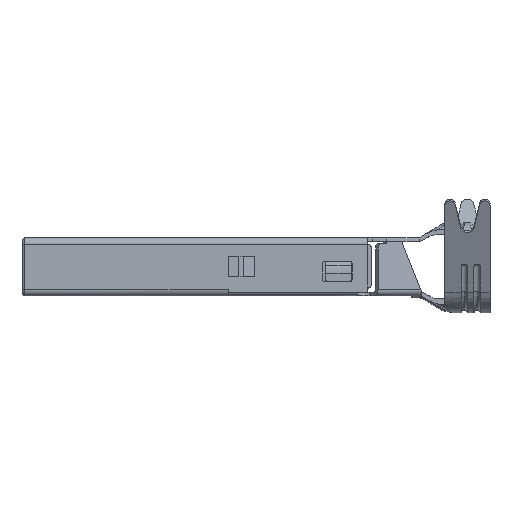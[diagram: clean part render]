
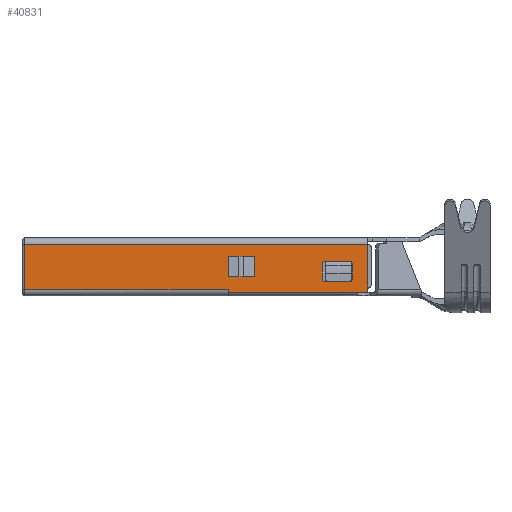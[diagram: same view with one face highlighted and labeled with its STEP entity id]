
A CAD part, left-side view. The second image highlights one B-rep face of the part: STEP entity #40831.
In plain terms, the highlighted planar face has unit normal (-1, 0, 0).
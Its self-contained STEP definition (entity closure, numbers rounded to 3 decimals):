
#592 = CIRCLE ( 'NONE', #28705, 0.2 ) ;
#2134 = DIRECTION ( 'NONE',  ( 0., 0., 1. ) ) ;
#2595 = VECTOR ( 'NONE', #7902, 1000. ) ;
#2637 = EDGE_CURVE ( 'NONE', #6120, #18739, #38503, .T. ) ;
#2782 = ORIENTED_EDGE ( 'NONE', *, *, #20407, .F. ) ;
#2844 = VERTEX_POINT ( 'NONE', #28411 ) ;
#2873 = CIRCLE ( 'NONE', #38255, 0.2 ) ;
#3022 = VERTEX_POINT ( 'NONE', #10012 ) ;
#3107 = CARTESIAN_POINT ( 'NONE',  ( -6., -8.5, -0.92 ) ) ;
#3429 = EDGE_CURVE ( 'NONE', #41104, #15082, #18975, .T. ) ;
#3697 = LINE ( 'NONE', #22072, #24335 ) ;
#4017 = LINE ( 'NONE', #31851, #8074 ) ;
#4866 = VECTOR ( 'NONE', #2134, 1000. ) ;
#4987 = ORIENTED_EDGE ( 'NONE', *, *, #29692, .F. ) ;
#5096 = EDGE_LOOP ( 'NONE', ( #2782, #30464, #9655, #22869, #8061, #40311, #41074, #6687 ) ) ;
#5278 = DIRECTION ( 'NONE',  ( -1., 0., 0. ) ) ;
#5310 = CARTESIAN_POINT ( 'NONE',  ( -6., -1.2, -1.92 ) ) ;
#5532 = ORIENTED_EDGE ( 'NONE', *, *, #19105, .T. ) ;
#5942 = LINE ( 'NONE', #36628, #4866 ) ;
#6120 = VERTEX_POINT ( 'NONE', #20046 ) ;
#6687 = ORIENTED_EDGE ( 'NONE', *, *, #3429, .F. ) ;
#6885 = LINE ( 'NONE', #14433, #38551 ) ;
#7722 = DIRECTION ( 'NONE',  ( 0., 1., 0. ) ) ;
#7902 = DIRECTION ( 'NONE',  ( 0., -1., 0. ) ) ;
#7993 = EDGE_CURVE ( 'NONE', #15082, #22793, #48181, .T. ) ;
#8033 = DIRECTION ( 'NONE',  ( 0., 1., 0. ) ) ;
#8061 = ORIENTED_EDGE ( 'NONE', *, *, #2637, .F. ) ;
#8074 = VECTOR ( 'NONE', #15342, 1000. ) ;
#8159 = CARTESIAN_POINT ( 'NONE',  ( -6., -12., 1.78 ) ) ;
#8299 = EDGE_CURVE ( 'NONE', #22793, #6120, #6885, .T. ) ;
#8676 = DIRECTION ( 'NONE',  ( 1., 0., 0. ) ) ;
#8678 = ORIENTED_EDGE ( 'NONE', *, *, #15381, .T. ) ;
#9036 = VERTEX_POINT ( 'NONE', #36975 ) ;
#9616 = CARTESIAN_POINT ( 'NONE',  ( -6., -3.2, 0.88 ) ) ;
#9655 = ORIENTED_EDGE ( 'NONE', *, *, #21961, .F. ) ;
#10012 = CARTESIAN_POINT ( 'NONE',  ( -6., -1.2, -1.72 ) ) ;
#10375 = VECTOR ( 'NONE', #18372, 1000. ) ;
#10484 = LINE ( 'NONE', #41207, #32705 ) ;
#11700 = CARTESIAN_POINT ( 'NONE',  ( -6., -1.2, 0.88 ) ) ;
#11907 = CARTESIAN_POINT ( 'NONE',  ( -6., -8.7, -1.12 ) ) ;
#12107 = CARTESIAN_POINT ( 'NONE',  ( -6., -10.6, -0.92 ) ) ;
#12245 = ORIENTED_EDGE ( 'NONE', *, *, #46770, .F. ) ;
#13776 = CARTESIAN_POINT ( 'NONE',  ( -6., -8.7, 0.48 ) ) ;
#14433 = CARTESIAN_POINT ( 'NONE',  ( -6., -10.8, -0.92 ) ) ;
#14988 = VECTOR ( 'NONE', #8033, 1000. ) ;
#15020 = EDGE_CURVE ( 'NONE', #18739, #28502, #27673, .T. ) ;
#15082 = VERTEX_POINT ( 'NONE', #43254 ) ;
#15203 = CARTESIAN_POINT ( 'NONE',  ( -6., -8.7, -1.12 ) ) ;
#15242 = VERTEX_POINT ( 'NONE', #23751 ) ;
#15342 = DIRECTION ( 'NONE',  ( 0., -1., 0. ) ) ;
#15381 = EDGE_CURVE ( 'NONE', #36878, #22774, #10484, .T. ) ;
#16241 = FACE_BOUND ( 'NONE', #5096, .T. ) ;
#16713 = ORIENTED_EDGE ( 'NONE', *, *, #39250, .F. ) ;
#17907 = VERTEX_POINT ( 'NONE', #9616 ) ;
#18048 = DIRECTION ( 'NONE',  ( 0., 1., 0. ) ) ;
#18339 = EDGE_LOOP ( 'NONE', ( #42837, #31669, #16713, #12245 ) ) ;
#18372 = DIRECTION ( 'NONE',  ( 0., 0., -1. ) ) ;
#18379 = LINE ( 'NONE', #45334, #36953 ) ;
#18547 = EDGE_CURVE ( 'NONE', #45453, #17907, #27101, .T. ) ;
#18739 = VERTEX_POINT ( 'NONE', #36857 ) ;
#18975 = LINE ( 'NONE', #15203, #2595 ) ;
#19105 = EDGE_CURVE ( 'NONE', #22774, #28131, #38625, .T. ) ;
#19798 = EDGE_CURVE ( 'NONE', #9036, #45453, #4017, .T. ) ;
#20046 = CARTESIAN_POINT ( 'NONE',  ( -6., -10.8, 0.28 ) ) ;
#20094 = CARTESIAN_POINT ( 'NONE',  ( -6., -10.6, 0.48 ) ) ;
#20407 = EDGE_CURVE ( 'NONE', #44604, #41104, #2873, .T. ) ;
#20469 = DIRECTION ( 'NONE',  ( 0., -1., 0. ) ) ;
#21924 = DIRECTION ( 'NONE',  ( 0., 0., 1. ) ) ;
#21961 = EDGE_CURVE ( 'NONE', #28502, #2844, #592, .T. ) ;
#22072 = CARTESIAN_POINT ( 'NONE',  ( -6., -3.2, 0.88 ) ) ;
#22375 = AXIS2_PLACEMENT_3D ( 'NONE', #24750, #47694, #20469 ) ;
#22774 = VERTEX_POINT ( 'NONE', #25105 ) ;
#22782 = LINE ( 'NONE', #30324, #27658 ) ;
#22793 = VERTEX_POINT ( 'NONE', #31894 ) ;
#22869 = ORIENTED_EDGE ( 'NONE', *, *, #15020, .F. ) ;
#23517 = DIRECTION ( 'NONE',  ( 0., 1., 0. ) ) ;
#23751 = CARTESIAN_POINT ( 'NONE',  ( -6., 14.62, -1.72 ) ) ;
#24035 = FACE_OUTER_BOUND ( 'NONE', #39158, .T. ) ;
#24335 = VECTOR ( 'NONE', #7722, 1000. ) ;
#24750 = CARTESIAN_POINT ( 'NONE',  ( -6., -10.6, 0.28 ) ) ;
#25105 = CARTESIAN_POINT ( 'NONE',  ( -6., -12., 1.78 ) ) ;
#26123 = CARTESIAN_POINT ( 'NONE',  ( -6., -12., -1.92 ) ) ;
#26628 = CARTESIAN_POINT ( 'NONE',  ( -6., -1.2, 0.88 ) ) ;
#27101 = LINE ( 'NONE', #42450, #27520 ) ;
#27469 = DIRECTION ( 'NONE',  ( 0., 0., -1. ) ) ;
#27520 = VECTOR ( 'NONE', #38689, 1000. ) ;
#27658 = VECTOR ( 'NONE', #41404, 1000. ) ;
#27673 = LINE ( 'NONE', #20094, #14988 ) ;
#27810 = FACE_BOUND ( 'NONE', #18339, .T. ) ;
#28021 = DIRECTION ( 'NONE',  ( 0., 0., 1. ) ) ;
#28131 = VERTEX_POINT ( 'NONE', #40772 ) ;
#28411 = CARTESIAN_POINT ( 'NONE',  ( -6., -8.5, 0.28 ) ) ;
#28502 = VERTEX_POINT ( 'NONE', #13776 ) ;
#28665 = CARTESIAN_POINT ( 'NONE',  ( -6., -8.7, -0.92 ) ) ;
#28705 = AXIS2_PLACEMENT_3D ( 'NONE', #42305, #41552, #21924 ) ;
#29692 = EDGE_CURVE ( 'NONE', #36878, #38637, #37194, .T. ) ;
#29743 = VECTOR ( 'NONE', #18048, 1000. ) ;
#30324 = CARTESIAN_POINT ( 'NONE',  ( -6., 14.62, -1.72 ) ) ;
#30464 = ORIENTED_EDGE ( 'NONE', *, *, #38951, .F. ) ;
#31096 = PLANE ( 'NONE',  #37835 ) ;
#31669 = ORIENTED_EDGE ( 'NONE', *, *, #19798, .F. ) ;
#31851 = CARTESIAN_POINT ( 'NONE',  ( -6., -1.2, -0.72 ) ) ;
#31894 = CARTESIAN_POINT ( 'NONE',  ( -6., -10.8, -0.92 ) ) ;
#32308 = ORIENTED_EDGE ( 'NONE', *, *, #41913, .F. ) ;
#32705 = VECTOR ( 'NONE', #28021, 1000. ) ;
#33204 = ORIENTED_EDGE ( 'NONE', *, *, #48044, .T. ) ;
#33404 = LINE ( 'NONE', #26628, #34508 ) ;
#33734 = DIRECTION ( 'NONE',  ( 0., 0., 1. ) ) ;
#34508 = VECTOR ( 'NONE', #45502, 1000. ) ;
#35094 = CARTESIAN_POINT ( 'NONE',  ( -6., -3.2, -0.72 ) ) ;
#36628 = CARTESIAN_POINT ( 'NONE',  ( -6., 14.62, -1.72 ) ) ;
#36857 = CARTESIAN_POINT ( 'NONE',  ( -6., -10.6, 0.48 ) ) ;
#36878 = VERTEX_POINT ( 'NONE', #45866 ) ;
#36953 = VECTOR ( 'NONE', #33734, 1000. ) ;
#36975 = CARTESIAN_POINT ( 'NONE',  ( -6., -1.2, -0.72 ) ) ;
#37013 = ORIENTED_EDGE ( 'NONE', *, *, #39849, .F. ) ;
#37194 = LINE ( 'NONE', #26123, #29743 ) ;
#37835 = AXIS2_PLACEMENT_3D ( 'NONE', #43164, #8676, #39392 ) ;
#38182 = VERTEX_POINT ( 'NONE', #11700 ) ;
#38255 = AXIS2_PLACEMENT_3D ( 'NONE', #28665, #40265, #44030 ) ;
#38503 = CIRCLE ( 'NONE', #22375, 0.2 ) ;
#38551 = VECTOR ( 'NONE', #41132, 1000. ) ;
#38625 = LINE ( 'NONE', #8159, #41187 ) ;
#38637 = VERTEX_POINT ( 'NONE', #5310 ) ;
#38689 = DIRECTION ( 'NONE',  ( 0., 0., 1. ) ) ;
#38951 = EDGE_CURVE ( 'NONE', #2844, #44604, #45826, .T. ) ;
#39158 = EDGE_LOOP ( 'NONE', ( #32308, #33204, #37013, #4987, #8678, #5532 ) ) ;
#39250 = EDGE_CURVE ( 'NONE', #38182, #9036, #33404, .T. ) ;
#39328 = AXIS2_PLACEMENT_3D ( 'NONE', #12107, #5278, #27469 ) ;
#39392 = DIRECTION ( 'NONE',  ( 0., 1., 0. ) ) ;
#39849 = EDGE_CURVE ( 'NONE', #38637, #3022, #18379, .T. ) ;
#40265 = DIRECTION ( 'NONE',  ( -1., 0., 0. ) ) ;
#40311 = ORIENTED_EDGE ( 'NONE', *, *, #8299, .F. ) ;
#40772 = CARTESIAN_POINT ( 'NONE',  ( -6., 14.62, 1.78 ) ) ;
#40831 = ADVANCED_FACE ( 'NONE', ( #27810, #16241, #24035 ), #31096, .F. ) ;
#41074 = ORIENTED_EDGE ( 'NONE', *, *, #7993, .F. ) ;
#41104 = VERTEX_POINT ( 'NONE', #11907 ) ;
#41132 = DIRECTION ( 'NONE',  ( 0., 0., 1. ) ) ;
#41187 = VECTOR ( 'NONE', #23517, 1000. ) ;
#41207 = CARTESIAN_POINT ( 'NONE',  ( -6., -12., -1.92 ) ) ;
#41404 = DIRECTION ( 'NONE',  ( 0., -1., 0. ) ) ;
#41552 = DIRECTION ( 'NONE',  ( -1., 0., 0. ) ) ;
#41913 = EDGE_CURVE ( 'NONE', #15242, #28131, #5942, .T. ) ;
#42305 = CARTESIAN_POINT ( 'NONE',  ( -6., -8.7, 0.28 ) ) ;
#42450 = CARTESIAN_POINT ( 'NONE',  ( -6., -3.2, -0.72 ) ) ;
#42837 = ORIENTED_EDGE ( 'NONE', *, *, #18547, .F. ) ;
#43164 = CARTESIAN_POINT ( 'NONE',  ( -6., 1.31, -0.07 ) ) ;
#43254 = CARTESIAN_POINT ( 'NONE',  ( -6., -10.6, -1.12 ) ) ;
#44030 = DIRECTION ( 'NONE',  ( 0., 1., 0. ) ) ;
#44604 = VERTEX_POINT ( 'NONE', #3107 ) ;
#45334 = CARTESIAN_POINT ( 'NONE',  ( -6., -1.2, -1.92 ) ) ;
#45453 = VERTEX_POINT ( 'NONE', #35094 ) ;
#45502 = DIRECTION ( 'NONE',  ( 0., 0., -1. ) ) ;
#45826 = LINE ( 'NONE', #49370, #10375 ) ;
#45866 = CARTESIAN_POINT ( 'NONE',  ( -6., -12., -1.92 ) ) ;
#46770 = EDGE_CURVE ( 'NONE', #17907, #38182, #3697, .T. ) ;
#47694 = DIRECTION ( 'NONE',  ( -1., 0., 0. ) ) ;
#48044 = EDGE_CURVE ( 'NONE', #15242, #3022, #22782, .T. ) ;
#48181 = CIRCLE ( 'NONE', #39328, 0.2 ) ;
#49370 = CARTESIAN_POINT ( 'NONE',  ( -6., -8.5, 0.28 ) ) ;
